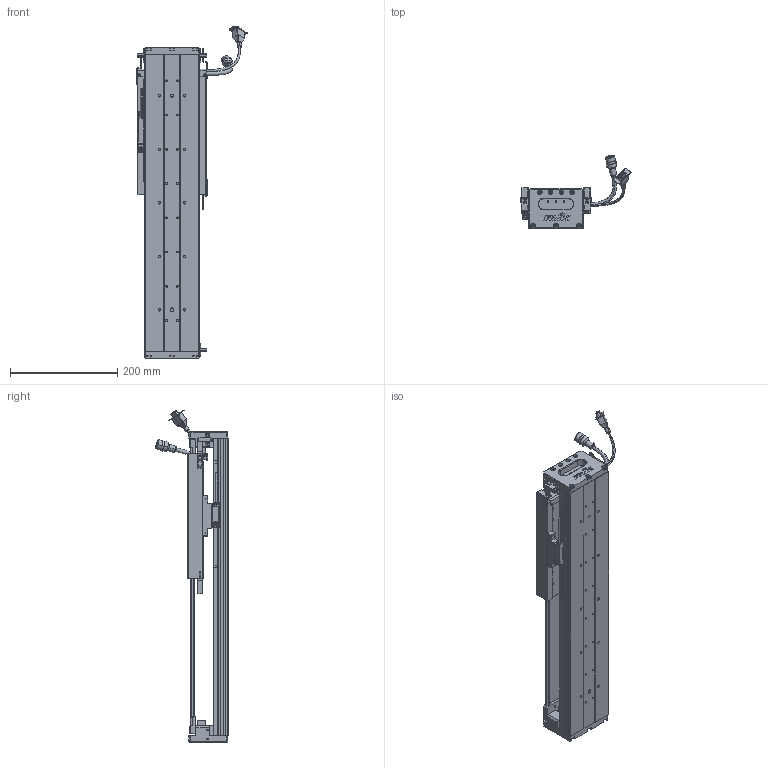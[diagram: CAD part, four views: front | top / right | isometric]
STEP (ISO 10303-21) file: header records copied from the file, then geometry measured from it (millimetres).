
FILE_DESCRIPTION (( 'STEP AP203' ), '1' );
FILE_NAME ('Z3-RY100D-1-L500-B-K.SLDASM_0250.step', '2021-05-17T02:49:26', ( '盈信电脑' ), ( '东莞市道滘镇水果街19号' ), 'SwSTEP 2.0', 'SolidWorks 2016', '' );
FILE_SCHEMA (( 'CONFIG_CONTROL_DESIGN' ));
Length unit declared in the file: millimetre
Products named in the file (36): LABEL-Part-1; 140雄赽晤鎢ん堤盄; 100-Z-臏賑輸盄裔(21遴); SCREW-M1.7; COVER; SEAL; 榋妏寠巭燃_暯_M2_2; HOLDER0; COVER-Part-1; 140蚥薯蝶輸; Z3-RY100D-500-倰第菁釱_0250; HARNESS-Part-1; SHIELDPLATE; 080黍杅芛假蚾釱21遴; Z-RY100D覜茼んえ; Z3-RY100-L500詩湍90mm遵_0250; PBU_SHEET; Z-RY100D詩湍狟揤裔; SCREW-M1.6-1; SCREW-M1.7-1; 覜茼ん672; SCREW-M1.6; LABEL; Z3-RY100铝滑块（21款）; SCALE-Part-2; Z3-RY100D-1-L500-B-K.SLDASM_0250; SCREW-M1.6-3; SCALE; Z-100詩湍傷裔啣; PSLH080_PSLF2; HARNESS-Part-2; Z-RY100D詩湍奻揤裔; HARNESS; SCREW-M1.6-2; SCALE-Part-1; SEAL-Part-1
Assembly tree (43 placements, depth 4):
  Z3-RY100D-1-L500-B-K.SLDASM_0250
    Z3-RY100D-500-倰第菁釱_0250
    Z3-RY100铝滑块（21款）
    PSLH080_PSLF2
      SCALE
        SCALE-Part-1
        SCALE-Part-2
      HARNESS
        HARNESS-Part-1
        HARNESS-Part-2
      LABEL
        LABEL-Part-1
      COVER
        COVER-Part-1
      SEAL
        SEAL-Part-1
      榋妏寠巭燃_暯_M2_2
      SHIELDPLATE
      SCREW-M1.7
      SCREW-M1.7-1
      PBU_SHEET
      SCREW-M1.6
      SCREW-M1.6-1
      SCREW-M1.6-2
      SCREW-M1.6-3
      HOLDER0
    080黍杅芛假蚾釱21遴
    Z-100詩湍傷裔啣  x2
    140蚥薯蝶輸  x2
    覜茼ん672  x3
    Z-RY100D覜茼んえ  x3
    100-Z-臏賑輸盄裔(21遴)
    140雄赽晤鎢ん堤盄
    Z3-RY100-L500詩湍90mm遵_0250
    Z-RY100D詩湍狟揤裔  x2
    Z-RY100D詩湍奻揤裔  x2
Bounding box: 205.84 x 136.11 x 620.43 mm (x, y, z)
Volume: 1615653.8 mm3; surface area: 594113.6 mm2
Topology: 38 solids, 38 shells, 2441 faces, 6295 edges, 3964 vertices
Faces by surface type: plane 1099, cylinder 994, cone 226, torus 69, bspline 53
Entity records: 64433 total; most frequent: CARTESIAN_POINT 13617, DIRECTION 10113, ORIENTED_EDGE 9470, EDGE_CURVE 4735, AXIS2_PLACEMENT_3D 3676, VERTEX_POINT 3032, VECTOR 2761, LINE 2761
